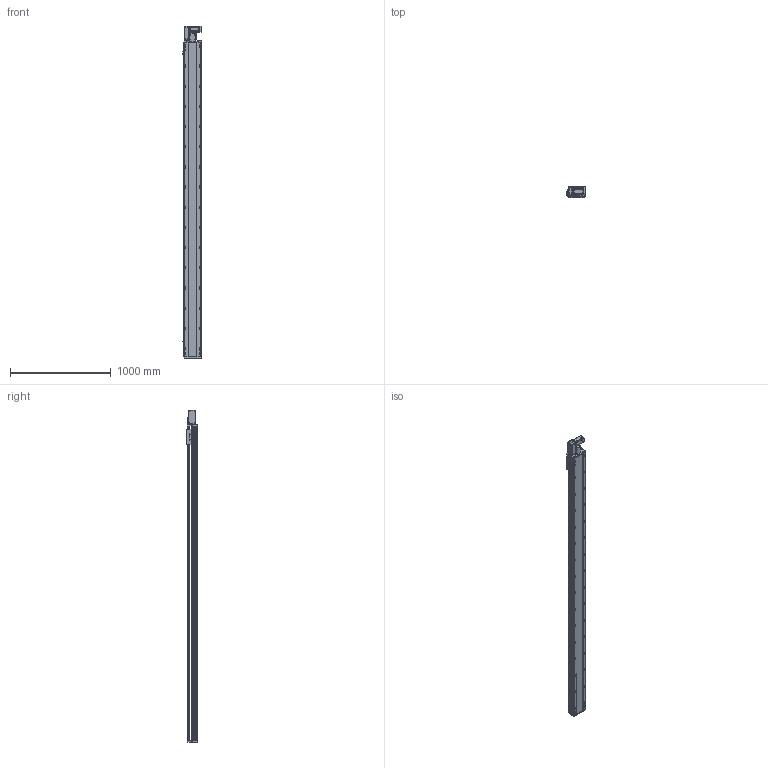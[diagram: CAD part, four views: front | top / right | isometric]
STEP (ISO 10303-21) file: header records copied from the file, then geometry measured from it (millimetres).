
FILE_DESCRIPTION (( 'STEP AP214' ), '1' );
FILE_NAME ('RTB17S-XX-2850-L-M40-C4.STEP', '2025-12-11T05:59:46', ( '' ), ( '' ), 'SwSTEP 2.0', 'SolidWorks 2018', '' );
FILE_SCHEMA (( 'AUTOMOTIVE_DESIGN' ));
Length unit declared in the file: millimetre
Products named in the file (14): RTB17S-L-皮带座装配-400W^RTB17S-XX-XX-L-M40-C4（方程式）; RTB14-L-008-M20--电机板^RTB17S-L-皮带座装配-400W_RTB17S-XX-XX-L-M40-C4（方程式）; 400W伺服电机^RTB17S-XX-XX-L-M40-C4（方程式）; RTB14-L-005P--轴承塑胶压盖^RTB17S-L-皮带座装配-400W_RTB17S-XX-XX-L-M40-C4（方程式）; RTB17S-XX-2850-L-M40-C4; RTB17S-L-007上盖^RTB17S-XX-XX-L-M40-C4（方程式）; RTH13-BL-012感应片外置^RTB17S-XX-XX-L-M40-C4（方程式）; RTB17S-L-004丝杆螺母连接座^RTB17S-XX-XX-L-M40-C4（方程式）; OMRON EE-SX672 传感器^RTB17S-XX-XX-L-M40-C4（方程式）; RTB17S-L-001侧面板^RTB17S-XX-XX-L-M40-C4（方程式）; RTB17-R-011底座^RTB17S-XX-XX-L-M40-C4（方程式）; RMP17S-L-014-T20--皮带座^RTB17S-L-皮带座装配-400W_RTB17S-XX-XX-L-M40-C4（方程式）; RTB14-L-017P^RTB17S-L-皮带座装配-400W_RTB17S-XX-XX-L-M40-C4（方程式）; RTB14-L-018P^RTB17S-L-皮带座装配-400W_RTB17S-XX-XX-L-M40-C4（方程式）
Assembly tree (16 placements, depth 3):
  RTB17S-XX-2850-L-M40-C4
    RTB17-R-011底座^RTB17S-XX-XX-L-M40-C4（方程式）
    RTB17S-L-007上盖^RTB17S-XX-XX-L-M40-C4（方程式）
    OMRON EE-SX672 传感器^RTB17S-XX-XX-L-M40-C4（方程式）  x3
    RTB17S-L-001侧面板^RTB17S-XX-XX-L-M40-C4（方程式）
    400W伺服电机^RTB17S-XX-XX-L-M40-C4（方程式）
    RTB17S-L-004丝杆螺母连接座^RTB17S-XX-XX-L-M40-C4（方程式）
    RTH13-BL-012感应片外置^RTB17S-XX-XX-L-M40-C4（方程式）
    RTB17S-L-皮带座装配-400W^RTB17S-XX-XX-L-M40-C4（方程式）
      RMP17S-L-014-T20--皮带座^RTB17S-L-皮带座装配-400W_RTB17S-XX-XX-L-M40-C4（方程式）
      RTB14-L-005P--轴承塑胶压盖^RTB17S-L-皮带座装配-400W_RTB17S-XX-XX-L-M40-C4（方程式）
      RTB14-L-008-M20--电机板^RTB17S-L-皮带座装配-400W_RTB17S-XX-XX-L-M40-C4（方程式）
      RTB14-L-017P^RTB17S-L-皮带座装配-400W_RTB17S-XX-XX-L-M40-C4（方程式）  x2
      RTB14-L-018P^RTB17S-L-皮带座装配-400W_RTB17S-XX-XX-L-M40-C4（方程式）
Bounding box: 186 x 108 x 3291 mm (x, y, z)
Volume: 27455697.1 mm3; surface area: 3145052.5 mm2
Topology: 15 solids, 15 shells, 2365 faces, 6627 edges, 4329 vertices
Faces by surface type: plane 1088, cylinder 829, bspline 301, cone 139, torus 8
Entity records: 70313 total; most frequent: CARTESIAN_POINT 20032, ORIENTED_EDGE 10098, DIRECTION 9296, EDGE_CURVE 5049, VERTEX_POINT 3317, AXIS2_PLACEMENT_3D 3247, LINE 2802, VECTOR 2802
